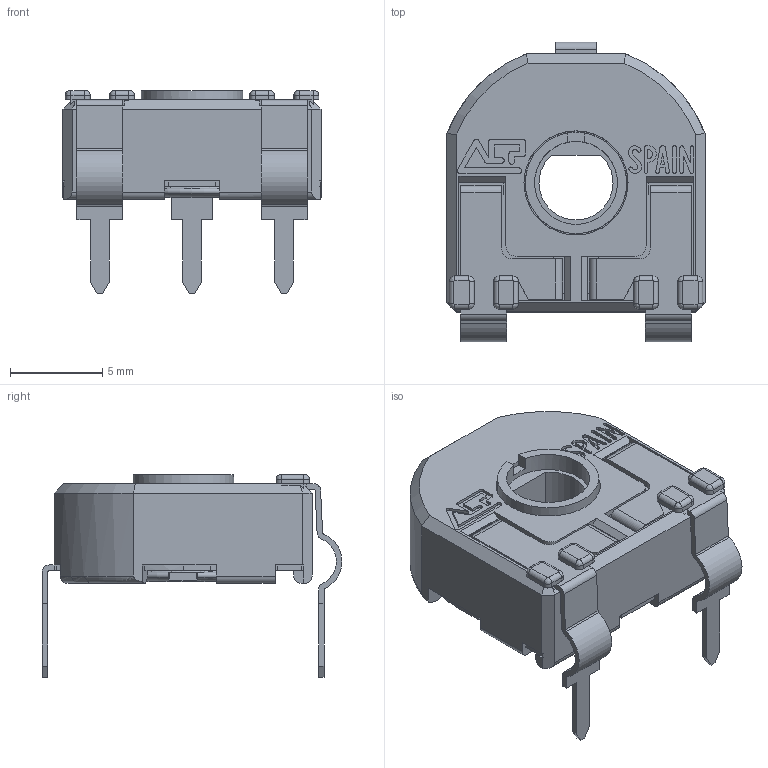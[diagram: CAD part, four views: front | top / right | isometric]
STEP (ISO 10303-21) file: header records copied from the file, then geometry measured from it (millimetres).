
FILE_DESCRIPTION(/* description */ (''),/* implementation_level */ '2;1');
FILE_NAME(/* name */ 'C:\Users\CEM\Desktop\ENVIAR\TRANSICION 3D CATALOGOS\CAR14FVR15.stp',/* time_stamp */ '2025-09-22T09:51:23+02:00',/* author */ ('CEM'),/* organization */ (''),/* preprocessor_version */ 'ST-DEVELOPER v17',/* originating_system */ 'Autodesk Inventor 2018',/* authorisation */ '');
FILE_SCHEMA (('AUTOMOTIVE_DESIGN { 1 0 10303 214 3 1 1 }'));
Length unit declared in the file: millimetre
Products named in the file (1): CAR14FVR15
Bounding box: 14 x 16.27 x 11 mm (x, y, z)
Volume: 547.7 mm3; surface area: 1560.2 mm2
Topology: 1 solids, 1 shells, 601 faces, 1754 edges, 1125 vertices
Faces by surface type: plane 403, cylinder 155, bspline 20, cone 14, torus 9
Full cylindrical faces by diameter (mm): 1.2 x2, 4.5 x1, 5.5 x1, 5.65 x1, 6.88 x1
Entity records: 20637 total; most frequent: CARTESIAN_POINT 3805, ORIENTED_EDGE 3508, DIRECTION 3309, EDGE_CURVE 1754, LINE 1287, VECTOR 1287, VERTEX_POINT 1125, AXIS2_PLACEMENT_3D 1011
